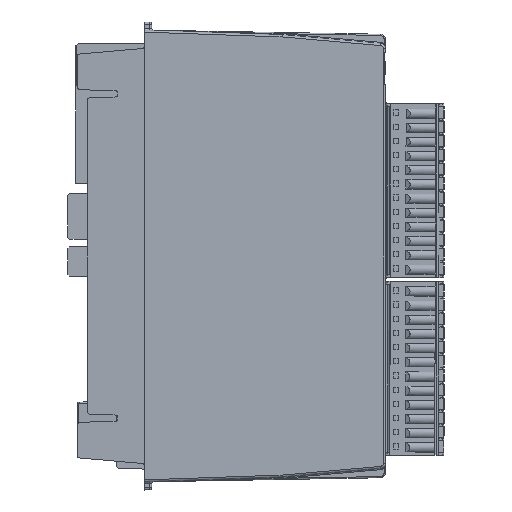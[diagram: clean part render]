
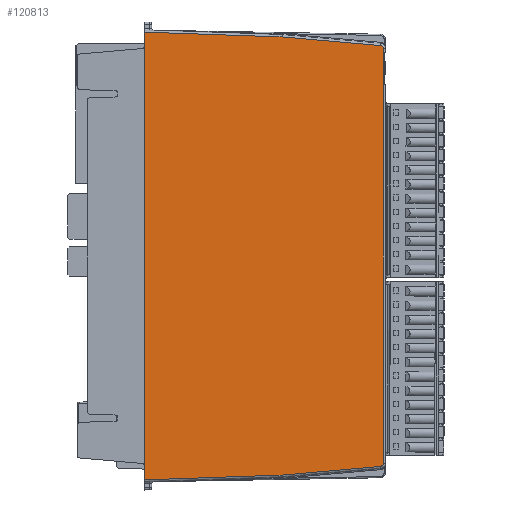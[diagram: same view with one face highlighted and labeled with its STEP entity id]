
A CAD part, left-side view. The second image highlights one B-rep face of the part: STEP entity #120813.
In plain terms, the highlighted planar face has unit normal (-1, -0.018, 0).
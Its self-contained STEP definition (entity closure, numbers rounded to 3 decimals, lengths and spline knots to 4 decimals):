
#998=ELLIPSE('',#128981,0.0315,0.0315);
#999=ELLIPSE('',#128982,0.0315,0.0315);
#5763=PLANE('',#128980);
#10814=FACE_OUTER_BOUND('',#17358,.T.);
#17358=EDGE_LOOP('',(#94557,#94558,#94559,#94560,#94561,#94562,#94563,#94564,
#94565,#94566));
#31923=LINE('',#188950,#44345);
#31924=LINE('',#188952,#44346);
#31925=LINE('',#188954,#44347);
#31926=LINE('',#188956,#44348);
#31927=LINE('',#188958,#44349);
#31928=LINE('',#188962,#44350);
#31929=LINE('',#188966,#44351);
#31930=LINE('',#188967,#44352);
#44345=VECTOR('',#150154,39.3701);
#44346=VECTOR('',#150155,39.3701);
#44347=VECTOR('',#150156,39.3701);
#44348=VECTOR('',#150157,39.3701);
#44349=VECTOR('',#150158,39.3701);
#44350=VECTOR('',#150161,39.3701);
#44351=VECTOR('',#150164,39.3701);
#44352=VECTOR('',#150165,39.3701);
#55633=VERTEX_POINT('',#188948);
#55634=VERTEX_POINT('',#188949);
#55635=VERTEX_POINT('',#188951);
#55636=VERTEX_POINT('',#188953);
#55637=VERTEX_POINT('',#188955);
#55638=VERTEX_POINT('',#188957);
#55639=VERTEX_POINT('',#188959);
#55640=VERTEX_POINT('',#188961);
#55641=VERTEX_POINT('',#188963);
#55642=VERTEX_POINT('',#188965);
#69526=EDGE_CURVE('',#55633,#55634,#31923,.T.);
#69527=EDGE_CURVE('',#55635,#55634,#31924,.T.);
#69528=EDGE_CURVE('',#55635,#55636,#31925,.T.);
#69529=EDGE_CURVE('',#55636,#55637,#31926,.T.);
#69530=EDGE_CURVE('',#55637,#55638,#31927,.T.);
#69531=EDGE_CURVE('',#55638,#55639,#998,.T.);
#69532=EDGE_CURVE('',#55639,#55640,#31928,.T.);
#69533=EDGE_CURVE('',#55640,#55641,#999,.T.);
#69534=EDGE_CURVE('',#55641,#55642,#31929,.T.);
#69535=EDGE_CURVE('',#55642,#55633,#31930,.T.);
#94557=ORIENTED_EDGE('',*,*,#69526,.T.);
#94558=ORIENTED_EDGE('',*,*,#69527,.F.);
#94559=ORIENTED_EDGE('',*,*,#69528,.T.);
#94560=ORIENTED_EDGE('',*,*,#69529,.T.);
#94561=ORIENTED_EDGE('',*,*,#69530,.T.);
#94562=ORIENTED_EDGE('',*,*,#69531,.T.);
#94563=ORIENTED_EDGE('',*,*,#69532,.T.);
#94564=ORIENTED_EDGE('',*,*,#69533,.T.);
#94565=ORIENTED_EDGE('',*,*,#69534,.T.);
#94566=ORIENTED_EDGE('',*,*,#69535,.T.);
#120813=ADVANCED_FACE('',(#10814),#5763,.T.);
#128980=AXIS2_PLACEMENT_3D('',#188947,#150152,#150153);
#128981=AXIS2_PLACEMENT_3D('',#188960,#150159,#150160);
#128982=AXIS2_PLACEMENT_3D('',#188964,#150162,#150163);
#150152=DIRECTION('center_axis',(-1.,-0.017,
0.));
#150153=DIRECTION('ref_axis',(-0.017,1.,0.));
#150154=DIRECTION('',(0.,0.,-1.));
#150155=DIRECTION('',(0.,0.,1.));
#150156=DIRECTION('',(0.,0.,-1.));
#150157=DIRECTION('',(0.017,-0.999,0.035));
#150158=DIRECTION('',(0.017,-0.996,0.087));
#150159=DIRECTION('center_axis',(-1.,-0.017,
0.));
#150160=DIRECTION('ref_axis',(0.017,-1.,0.));
#150161=DIRECTION('',(0.,0.,1.));
#150162=DIRECTION('center_axis',(-1.,-0.017,
0.));
#150163=DIRECTION('ref_axis',(0.017,-1.,0.));
#150164=DIRECTION('',(-0.017,0.996,0.087));
#150165=DIRECTION('',(-0.017,0.999,0.035));
#188947=CARTESIAN_POINT('Origin',(-0.0296,-0.489,
-2.0669));
#188948=CARTESIAN_POINT('',(-0.0227,-0.8827,0.1083));
#188949=CARTESIAN_POINT('',(-0.0227,-0.8827,-0.0312));
#188950=CARTESIAN_POINT('',(-0.0227,-0.8827,0.128));
#188951=CARTESIAN_POINT('',(-0.0227,-0.8827,-4.1027));
#188952=CARTESIAN_POINT('',(-0.0227,-0.8827,-7.5932));
#188953=CARTESIAN_POINT('',(-0.0227,-0.8827,-4.2421));
#188954=CARTESIAN_POINT('',(-0.0227,-0.8827,0.128));
#188955=CARTESIAN_POINT('',(0.0007,-2.2205,-4.1954));
#188956=CARTESIAN_POINT('',(-0.0282,-0.5654,-4.2532));
#188957=CARTESIAN_POINT('',(0.0174,-3.1772,-4.1117));
#188958=CARTESIAN_POINT('',(-0.0261,-0.6869,-4.3296));
#188959=CARTESIAN_POINT('',(0.0179,-3.2059,-4.0803));
#188960=CARTESIAN_POINT('Origin',(0.0173,-3.1744,
-4.0803));
#188961=CARTESIAN_POINT('',(0.0179,-3.2059,-0.0535));
#188962=CARTESIAN_POINT('',(0.0179,-3.2059,-0.0535));
#188963=CARTESIAN_POINT('',(0.0174,-3.1772,-0.0221));
#188964=CARTESIAN_POINT('Origin',(0.0173,-3.1744,
-0.0535));
#188965=CARTESIAN_POINT('',(0.0007,-2.2205,0.0616));
#188966=CARTESIAN_POINT('',(-0.0261,-0.6869,0.1957));
#188967=CARTESIAN_POINT('',(-0.0282,-0.5654,0.1194));
